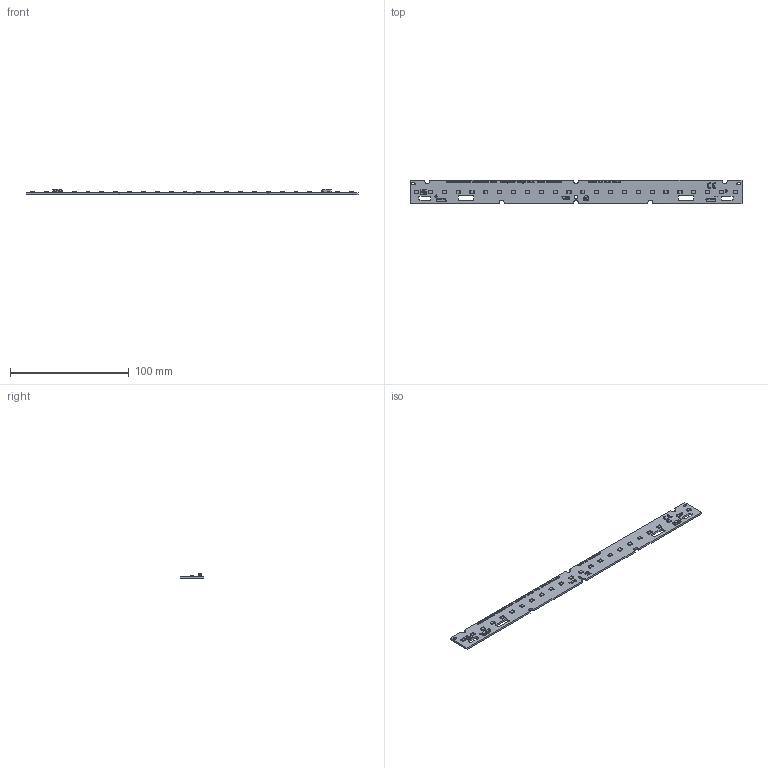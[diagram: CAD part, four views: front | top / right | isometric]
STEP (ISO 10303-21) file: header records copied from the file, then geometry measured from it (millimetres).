
FILE_DESCRIPTION(('Creo Elements/Direct Modeling STEP Export'),'2;1');
FILE_NAME('3D-Model_WU-M-735-STC.stp','2024-11-27T14:11:04',(''),(''),'PTC Creo Elements/Direct Modeling STEP processor for AP214 (Solid Model)','PTC Creo Elements/Direct Modeling 19.0E 27-Jun-2016 (C) Parametric Technology GmbH','');
FILE_SCHEMA(('AUTOMOTIVE_DESIGN { 1 0 10303 214 1 1 1 1 }'));
Length unit declared in the file: millimetre
Products named in the file (364): _____STEP.PRT.9; _____STEP.PRT.8; _____STEP.PRT.7; _____STEP.PRT.6; _____STEP.PRT.5; _____STEP.PRT.4; _____STEP.PRT.3; _____STEP.PRT.23; _____STEP.PRT.22; _____STEP.PRT.21; _____STEP.PRT.20; _____STEP.PRT.2; _____STEP.PRT.19; _____STEP.PRT.18; _____STEP.PRT.17; _____STEP.PRT.16; _____STEP.PRT.15; _____STEP.PRT.14; _____STEP.PRT.13; _____STEP.PRT.12; _____STEP.PRT.11; _____STEP.PRT.10; _____STEP.PRT.1.1; _____STEP.PRT.1; _____STEP.PRT; _____-0_STEP.PRT.9; _____-0_STEP.PRT.8; _____-0_STEP.PRT.7; _____-0_STEP.PRT.6; _____-0_STEP.PRT.5; _____-0_STEP.PRT.4; _____-0_STEP.PRT.3; _____-0_STEP.PRT.23; _____-0_STEP.PRT.22; _____-0_STEP.PRT.21; _____-0_STEP.PRT.20; _____-0_STEP.PRT.2; _____-0_STEP.PRT.19; _____-0_STEP.PRT.18; _____-0_STEP.PRT.17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
Assembly tree (132 placements, depth 2):
  _____STEP.PRT.9
    _____STEP.PRT.9
  _____STEP.PRT.8
    _____STEP.PRT.8
  _____STEP.PRT.7
    _____STEP.PRT.7
  _____STEP.PRT.6
    _____STEP.PRT.6
  _____STEP.PRT.5
    _____STEP.PRT.5
Bounding box: 279 x 20 x 4.3 mm (x, y, z)
Volume: 8671.3 mm3; surface area: 14270.2 mm2
Topology: 206 solids, 310 shells, 9641 faces, 26390 edges, 17347 vertices
Faces by surface type: plane 7365, cylinder 2276
Entity records: 383314 total; most frequent: CARTESIAN_POINT 53032, ORIENTED_EDGE 52884, DIRECTION 49719, EDGE_CURVE 26390, VECTOR 21535, LINE 21535, VERTEX_POINT 17347, AXIS2_PLACEMENT_3D 14092
